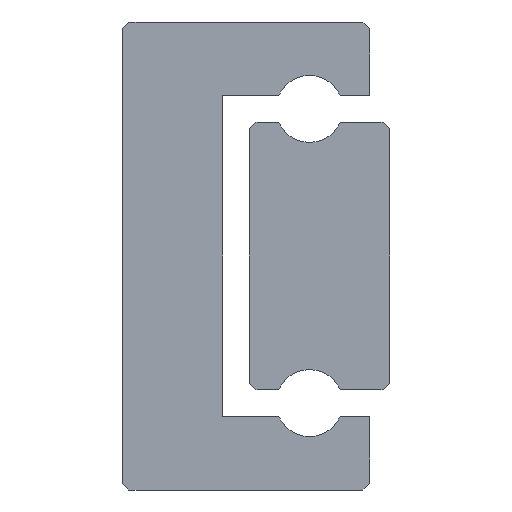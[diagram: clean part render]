
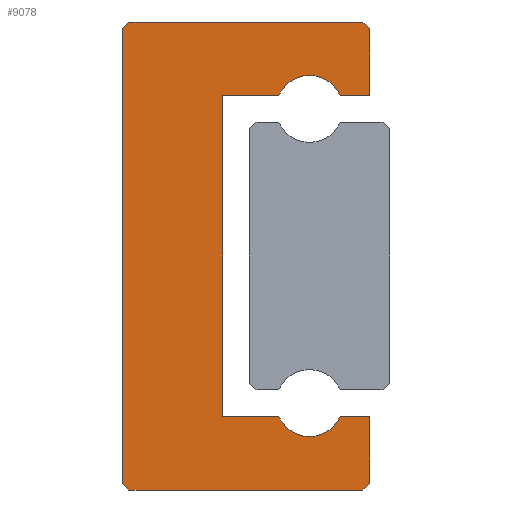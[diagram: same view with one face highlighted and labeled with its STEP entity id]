
A CAD part, left-side view. The second image highlights one B-rep face of the part: STEP entity #9078.
In plain terms, the highlighted planar face has unit normal (-1, 0, 0).
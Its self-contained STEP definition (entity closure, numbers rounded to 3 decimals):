
#63=PLANE('',#9880);
#269=LINE('',#13826,#1075);
#407=LINE('',#14599,#1213);
#410=LINE('',#14605,#1216);
#413=LINE('',#14611,#1219);
#417=LINE('',#14623,#1223);
#420=LINE('',#14633,#1226);
#423=LINE('',#14639,#1229);
#427=LINE('',#14651,#1233);
#430=LINE('',#14657,#1236);
#433=LINE('',#14663,#1239);
#436=LINE('',#14669,#1242);
#439=LINE('',#14675,#1245);
#442=LINE('',#14685,#1248);
#445=LINE('',#14691,#1251);
#1075=VECTOR('',#10791,1000.);
#1213=VECTOR('',#11427,1000.);
#1216=VECTOR('',#11432,1000.);
#1219=VECTOR('',#11437,1000.);
#1223=VECTOR('',#11449,1000.);
#1226=VECTOR('',#11458,1000.);
#1229=VECTOR('',#11463,1000.);
#1233=VECTOR('',#11475,1000.);
#1236=VECTOR('',#11480,1000.);
#1239=VECTOR('',#11485,1000.);
#1242=VECTOR('',#11490,1000.);
#1245=VECTOR('',#11495,1000.);
#1248=VECTOR('',#11504,1000.);
#1251=VECTOR('',#11509,1000.);
#2403=ORIENTED_EDGE('',*,*,#4717,.F.);
#2404=ORIENTED_EDGE('',*,*,#5149,.F.);
#2405=ORIENTED_EDGE('',*,*,#5146,.F.);
#2406=ORIENTED_EDGE('',*,*,#5141,.F.);
#2407=ORIENTED_EDGE('',*,*,#5138,.F.);
#2408=ORIENTED_EDGE('',*,*,#5135,.F.);
#2409=ORIENTED_EDGE('',*,*,#5132,.F.);
#2410=ORIENTED_EDGE('',*,*,#5129,.F.);
#2411=ORIENTED_EDGE('',*,*,#5126,.T.);
#2412=ORIENTED_EDGE('',*,*,#5123,.F.);
#2413=ORIENTED_EDGE('',*,*,#5120,.F.);
#2414=ORIENTED_EDGE('',*,*,#5115,.F.);
#2415=ORIENTED_EDGE('',*,*,#5112,.T.);
#2416=ORIENTED_EDGE('',*,*,#5109,.F.);
#2417=ORIENTED_EDGE('',*,*,#5106,.F.);
#2418=ORIENTED_EDGE('',*,*,#5103,.F.);
#4717=EDGE_CURVE('',#6117,#6118,#269,.T.);
#5103=EDGE_CURVE('',#6118,#6503,#407,.T.);
#5106=EDGE_CURVE('',#6503,#6505,#410,.T.);
#5109=EDGE_CURVE('',#6505,#6507,#413,.T.);
#5112=EDGE_CURVE('',#6509,#6507,#7291,.T.);
#5115=EDGE_CURVE('',#6509,#6511,#417,.T.);
#5120=EDGE_CURVE('',#6511,#6515,#420,.T.);
#5123=EDGE_CURVE('',#6515,#6517,#423,.T.);
#5126=EDGE_CURVE('',#6519,#6517,#7295,.T.);
#5129=EDGE_CURVE('',#6519,#6521,#427,.T.);
#5132=EDGE_CURVE('',#6521,#6523,#430,.T.);
#5135=EDGE_CURVE('',#6523,#6525,#433,.T.);
#5138=EDGE_CURVE('',#6525,#6527,#436,.T.);
#5141=EDGE_CURVE('',#6527,#6529,#439,.T.);
#5146=EDGE_CURVE('',#6529,#6533,#442,.T.);
#5149=EDGE_CURVE('',#6533,#6117,#445,.T.);
#6117=VERTEX_POINT('',#13827);
#6118=VERTEX_POINT('',#13828);
#6503=VERTEX_POINT('',#14600);
#6505=VERTEX_POINT('',#14606);
#6507=VERTEX_POINT('',#14612);
#6509=VERTEX_POINT('',#14618);
#6511=VERTEX_POINT('',#14624);
#6515=VERTEX_POINT('',#14634);
#6517=VERTEX_POINT('',#14640);
#6519=VERTEX_POINT('',#14646);
#6521=VERTEX_POINT('',#14652);
#6523=VERTEX_POINT('',#14658);
#6525=VERTEX_POINT('',#14664);
#6527=VERTEX_POINT('',#14670);
#6529=VERTEX_POINT('',#14676);
#6533=VERTEX_POINT('',#14686);
#7291=CIRCLE('',#9860,0.5);
#7295=CIRCLE('',#9868,0.5);
#7709=EDGE_LOOP('',(#2403,#2404,#2405,#2406,#2407,#2408,#2409,#2410,#2411,
#2412,#2413,#2414,#2415,#2416,#2417,#2418));
#8261=FACE_BOUND('',#7709,.T.);
#9078=ADVANCED_FACE('',(#8261),#63,.F.);
#9860=AXIS2_PLACEMENT_3D('',#14617,#11442,#11443);
#9868=AXIS2_PLACEMENT_3D('',#14645,#11468,#11469);
#9880=AXIS2_PLACEMENT_3D('',#14694,#11513,#11514);
#10791=DIRECTION('',(0.,-1.,0.));
#11427=DIRECTION('',(0.,-0.707,-0.707));
#11432=DIRECTION('',(0.,0.,-1.));
#11437=DIRECTION('',(0.,1.,0.));
#11442=DIRECTION('',(1.,0.,0.));
#11443=DIRECTION('',(0.,0.,-1.));
#11449=DIRECTION('',(0.,1.,0.));
#11458=DIRECTION('',(0.,0.,-1.));
#11463=DIRECTION('',(0.,-1.,0.));
#11468=DIRECTION('',(1.,0.,0.));
#11469=DIRECTION('',(0.,0.,-1.));
#11475=DIRECTION('',(0.,-1.,0.));
#11480=DIRECTION('',(0.,0.,-1.));
#11485=DIRECTION('',(0.,0.707,-0.707));
#11490=DIRECTION('',(0.,1.,0.));
#11495=DIRECTION('',(0.,0.707,0.707));
#11504=DIRECTION('',(0.,0.,1.));
#11509=DIRECTION('',(0.,-0.707,0.707));
#11513=DIRECTION('',(1.,0.,0.));
#11514=DIRECTION('',(0.,0.,-1.));
#13826=CARTESIAN_POINT('',(-7.5,3.6,3.5));
#13827=CARTESIAN_POINT('',(-7.5,3.6,3.5));
#13828=CARTESIAN_POINT('',(-7.5,0.1,3.5));
#14599=CARTESIAN_POINT('',(-7.5,0.1,3.5));
#14600=CARTESIAN_POINT('',(-7.5,0.,3.4));
#14605=CARTESIAN_POINT('',(-7.5,0.,3.4));
#14606=CARTESIAN_POINT('',(-7.5,0.,2.4));
#14611=CARTESIAN_POINT('',(-7.5,0.,2.4));
#14612=CARTESIAN_POINT('',(-7.5,0.442,2.4));
#14617=CARTESIAN_POINT('',(-7.5,0.9,2.2));
#14618=CARTESIAN_POINT('',(-7.5,1.358,2.4));
#14623=CARTESIAN_POINT('',(-7.5,1.358,2.4));
#14624=CARTESIAN_POINT('',(-7.5,2.2,2.4));
#14633=CARTESIAN_POINT('',(-7.5,2.2,2.4));
#14634=CARTESIAN_POINT('',(-7.5,2.2,-2.4));
#14639=CARTESIAN_POINT('',(-7.5,2.2,-2.4));
#14640=CARTESIAN_POINT('',(-7.5,1.358,-2.4));
#14645=CARTESIAN_POINT('',(-7.5,0.9,-2.2));
#14646=CARTESIAN_POINT('',(-7.5,0.442,-2.4));
#14651=CARTESIAN_POINT('',(-7.5,0.442,-2.4));
#14652=CARTESIAN_POINT('',(-7.5,0.,-2.4));
#14657=CARTESIAN_POINT('',(-7.5,0.,-2.4));
#14658=CARTESIAN_POINT('',(-7.5,0.,-3.4));
#14663=CARTESIAN_POINT('',(-7.5,0.,-3.4));
#14664=CARTESIAN_POINT('',(-7.5,0.1,-3.5));
#14669=CARTESIAN_POINT('',(-7.5,0.1,-3.5));
#14670=CARTESIAN_POINT('',(-7.5,3.6,-3.5));
#14675=CARTESIAN_POINT('',(-7.5,3.6,-3.5));
#14676=CARTESIAN_POINT('',(-7.5,3.7,-3.4));
#14685=CARTESIAN_POINT('',(-7.5,3.7,-3.4));
#14686=CARTESIAN_POINT('',(-7.5,3.7,3.4));
#14691=CARTESIAN_POINT('',(-7.5,3.7,3.4));
#14694=CARTESIAN_POINT('',(-7.5,0.9,2.2));
